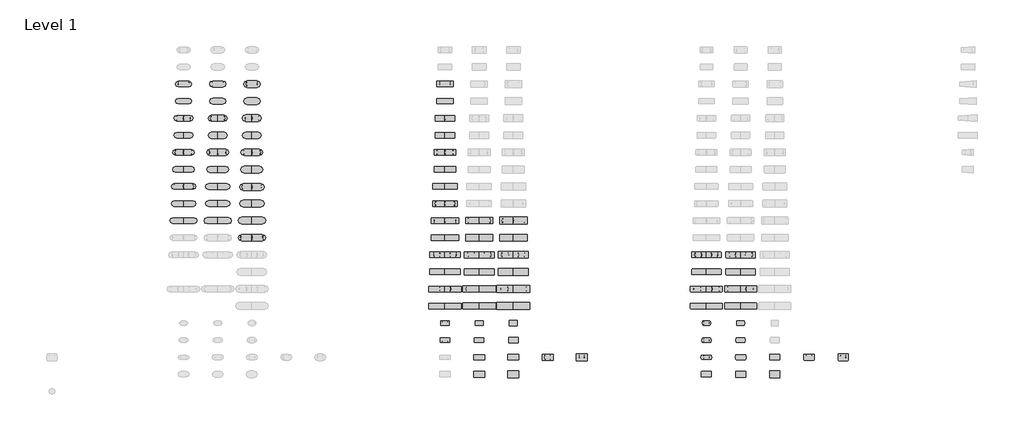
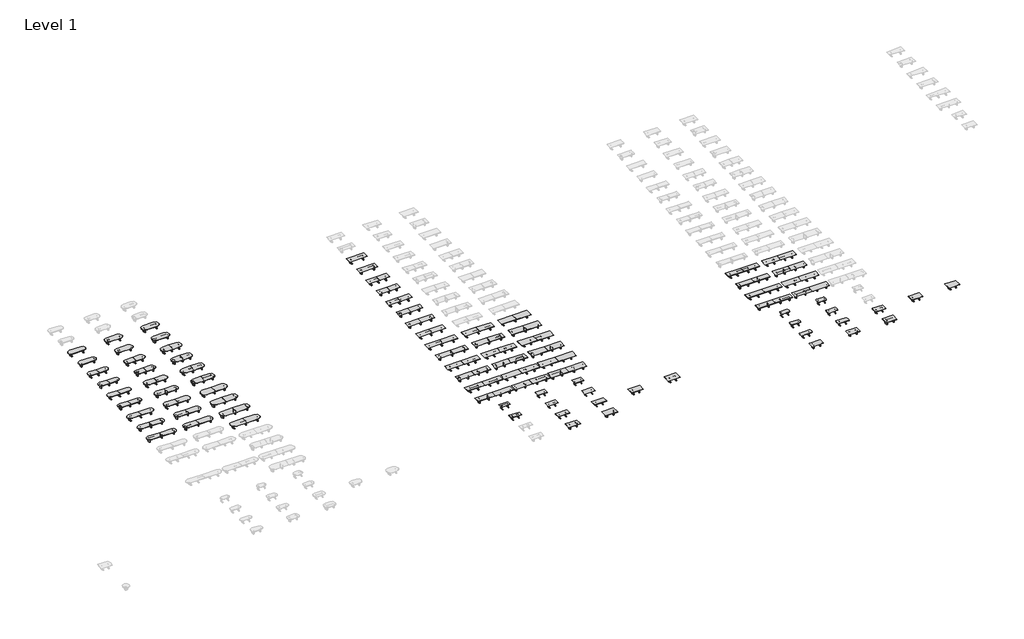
# One storey, part 2 of 3: 86 furniture elements.
"""IFC4 building model written with IfcOpenShell, lengths in millimetres."""

from ifc_helpers import new_model, si_unit, origin, place, context, project, spatial, transform, mapped, element, save
from components import furniture_36d_3dbc22d1, furniture_36d_40c2a438, furniture_36d_6a36a84a, furniture_36d_5739cef9, furniture_36d_7d7f5c59, furniture_42d_c484a762, furniture_42d_29a239c2, furniture_42d_aea06602, furniture_42d_55c07481, furniture_42d_2f060491, furniture_42d_a634458f, furniture_48d_0efdce5b, furniture_48d_e3e12d28, furniture_48d_d1b01ad5, furniture_48d_ae206274, furniture_48d_08eb001f, furniture_48d_54405f91, furniture_48d_d8c206ab, furniture_48d_8af77be7, furniture_48d_4dcca9eb, furniture_48d_d0c0373c, furniture_48d_4e825bd2, furniture_48d_83eda018, furniture_48d_89c9d34d, furniture_48d_2db85514, furniture_48d_a24e7c98, furniture_48d_375dbffd, furniture_48d_2fcb32b7, furniture_48d_76c35294, furniture_48d_12ac701e, furniture_48d_bba248dc, furniture_48d_ad6c0e78, furniture_48d_02159c9c, furniture_48d_0e4f156b, furniture_48d_1f168789, furniture_48d_3bdc1eed, furniture_48d_5808e242, furniture_48d_4f236a16, furniture_48d_a63c1d98, furniture_48d_34605e6a, furniture_48d_51cb476e, furniture_48d_468f8837, furniture_48d_277532bd, furniture_48d_9ae3bff3, furniture_48d_48fad50a, furniture_54d_72e88866, furniture_54d_8b636b1f, furniture_54d_8565a637, furniture_54d_f987d63c, furniture_54d_3a0905d3, furniture_54d_2627609f, furniture_54d_18104b15, furniture_54d_fcdf6722, furniture_54d_d06905ca, furniture_54d_b636ba2b, furniture_54d_6ded3c11, furniture_54d_bbad1931, furniture_54d_0f6988a3, furniture_54d_ceadc46e, furniture_54d_5ac49c39, furniture_54d_fdcc5884, furniture_54d_941b465b, furniture_54d_e3f36c5a, furniture_54d_09924e1d, furniture_54d_5252a1df, furniture_54d_7f392c79, furniture_54d_5d23f60c, furniture_54d_4fca18bc, furniture_60d_595060a9, furniture_60d_c13e7d78, furniture_60d_99d75cea, furniture_60d_1b9e8316, furniture_60d_1739f9b0, furniture_60d_0058798f, furniture_60d_fc41525b, furniture_60d_28f57a3e, furniture_60d_240b983f, furniture_60d_01271257, furniture_60d_119e4f8b, furniture_60d_2a99bef6, furniture_60d_5f34fe1c, furniture_60d_5a4dc6db, furniture_60d_78f2c5b1, furniture_60d_3c0d05f1, furniture_60d_f8289ab6, furniture_60d_041f9e97, furniture_60d_811de827, furniture_60d_4b0efca1

model = new_model("IFC4")

# Units and contexts
model_context = context("Model", 3, world=origin())
ifc_project = project(units=[si_unit("LENGTHUNIT", "METRE", prefix="MILLI")], contexts=[model_context])

# Site, building, storey
site = spatial("IfcSite", under=ifc_project)
building = spatial("IfcBuilding", under=site)
storey = spatial("IfcBuildingStorey", under=building, Name="Level 1", Elevation=0.0)

# Furniture
placement = place(None, origin())
furniture_36d_shape = furniture_36d_3dbc22d1(model_context)
element("IfcFurniture", 1, ObjectType="Coalesse_AM_Table_Conference_ETable2_Rectangular_72in_AluminiumBase : 36D", at=placement, inside=storey, context=model_context, shape_type="MappedRepresentation", body=[
    mapped(furniture_36d_shape, transform((890409.9142043, -56841.6858647, 0.0), x_axis=(1.0, 0.0, 0.0), y_axis=(0.0, 1.0, 0.0), z_axis=(0.0, 0.0, 1.0))),
])
furniture_36d_2_shape = furniture_36d_40c2a438(model_context)
element("IfcFurniture", 2, ObjectType="Coalesse_AM_Table_Conference_ETable2_Rectangular_84in_AluminiumBase : 36D", at=placement, inside=storey, context=model_context, shape_type="MappedRepresentation", body=[
    mapped(furniture_36d_2_shape, transform((890409.9142043, -60651.6858647, 0.0), x_axis=(1.0, 0.0, 0.0), y_axis=(0.0, 1.0, 0.0), z_axis=(0.0, 0.0, 1.0))),
])
furniture_36d_3_shape = furniture_36d_6a36a84a(model_context)
element("IfcFurniture", 3, ObjectType="Coalesse_AM_Table_Conference_ETable2_SoftRadiused_72in_AluminiumBase : 36D", at=placement, inside=storey, context=model_context, shape_type="MappedRepresentation", body=[
    mapped(furniture_36d_3_shape, transform((948685.1829849, -56841.6858647, 0.0), x_axis=(1.0, 0.0, 0.0), y_axis=(0.0, 1.0, 0.0), z_axis=(0.0, 0.0, 1.0))),
])
furniture_36d_4_shape = furniture_36d_5739cef9(model_context)
element("IfcFurniture", 4, ObjectType="Coalesse_AM_Table_Conference_ETable2_SoftRadiused_84in_AluminiumBase : 36D", at=placement, inside=storey, context=model_context, shape_type="MappedRepresentation", body=[
    mapped(furniture_36d_4_shape, transform((948685.1829849, -60651.6858647, 0.0), x_axis=(1.0, 0.0, 0.0), y_axis=(0.0, 1.0, 0.0), z_axis=(0.0, 0.0, 1.0))),
])
furniture_36d_5_shape = furniture_36d_7d7f5c59(model_context)
element("IfcFurniture", 5, ObjectType="Coalesse_AM_Table_Conference_ETable2_SoftRadiused_96in_AluminiumBase : 36D", at=placement, inside=storey, context=model_context, shape_type="MappedRepresentation", body=[
    mapped(furniture_36d_5_shape, transform((948685.1829849, -64461.6858647, 0.0), x_axis=(1.0, 0.0, 0.0), y_axis=(0.0, 1.0, 0.0), z_axis=(0.0, 0.0, 1.0))),
])
furniture_42d_shape = furniture_42d_c484a762(model_context)
element("IfcFurniture", 6, ObjectType="Coalesse_AM_Table_Conference_ETable2_Rectangular_72in_AluminiumBase : 42D", at=placement, inside=storey, context=model_context, shape_type="MappedRepresentation", body=[
    mapped(furniture_42d_shape, transform((898029.9142043, -56841.6858647, 0.0), x_axis=(1.0, 0.0, 0.0), y_axis=(0.0, 1.0, 0.0), z_axis=(0.0, 0.0, 1.0))),
])
furniture_42d_2_shape = furniture_42d_29a239c2(model_context)
element("IfcFurniture", 7, ObjectType="Coalesse_AM_Table_Conference_ETable2_Rectangular_84in_AluminiumBase : 42D", at=placement, inside=storey, context=model_context, shape_type="MappedRepresentation", body=[
    mapped(furniture_42d_2_shape, transform((898029.9142043, -60651.6858647, 0.0), x_axis=(1.0, 0.0, 0.0), y_axis=(0.0, 1.0, 0.0), z_axis=(0.0, 0.0, 1.0))),
])
furniture_42d_3_shape = furniture_42d_aea06602(model_context)
element("IfcFurniture", 8, ObjectType="Coalesse_AM_Table_Conference_ETable2_Rectangular_96in_AluminiumBase : 42D", at=placement, inside=storey, context=model_context, shape_type="MappedRepresentation", body=[
    mapped(furniture_42d_3_shape, transform((898029.9142043, -64461.6858647, 0.0), x_axis=(1.0, 0.0, 0.0), y_axis=(0.0, 1.0, 0.0), z_axis=(0.0, 0.0, 1.0))),
])
furniture_42d_4_shape = furniture_42d_55c07481(model_context)
element("IfcFurniture", 9, ObjectType="Coalesse_AM_Table_Conference_ETable2_SoftRadiused_72in_AluminiumBase : 42D", at=placement, inside=storey, context=model_context, shape_type="MappedRepresentation", body=[
    mapped(furniture_42d_4_shape, transform((956305.1829849, -56841.6858647, 0.0), x_axis=(1.0, 0.0, 0.0), y_axis=(0.0, 1.0, 0.0), z_axis=(0.0, 0.0, 1.0))),
])
furniture_42d_5_shape = furniture_42d_2f060491(model_context)
element("IfcFurniture", 10, ObjectType="Coalesse_AM_Table_Conference_ETable2_SoftRadiused_84in_AluminiumBase : 42D", at=placement, inside=storey, context=model_context, shape_type="MappedRepresentation", body=[
    mapped(furniture_42d_5_shape, transform((956305.1829849, -60651.6858647, 0.0), x_axis=(1.0, 0.0, 0.0), y_axis=(0.0, 1.0, 0.0), z_axis=(0.0, 0.0, 1.0))),
])
furniture_42d_6_shape = furniture_42d_a634458f(model_context)
element("IfcFurniture", 11, ObjectType="Coalesse_AM_Table_Conference_ETable2_SoftRadiused_96in_AluminiumBase : 42D", at=placement, inside=storey, context=model_context, shape_type="MappedRepresentation", body=[
    mapped(furniture_42d_6_shape, transform((956305.1829849, -64461.6858647, 0.0), x_axis=(1.0, 0.0, 0.0), y_axis=(0.0, 1.0, 0.0), z_axis=(0.0, 0.0, 1.0))),
])
furniture_48d_shape = furniture_48d_0efdce5b(model_context)
element("IfcFurniture", 12, ObjectType="Coalesse_AM_Table_Conference_ETable2_Rectangular_12ft_AluminiumBase : 48D", at=placement, inside=storey, context=model_context, shape_type="MappedRepresentation", body=[
    mapped(furniture_48d_shape, transform((890409.9142043, -3501.6858647, 0.0), x_axis=(1.0, 0.0, 0.0), y_axis=(0.0, 1.0, 0.0), z_axis=(0.0, 0.0, 1.0))),
])
furniture_48d_2_shape = furniture_48d_e3e12d28(model_context)
element("IfcFurniture", 13, ObjectType="Coalesse_AM_Table_Conference_ETable2_Rectangular_12ft_TwoBase : 48D", at=placement, inside=storey, context=model_context, shape_type="MappedRepresentation", body=[
    mapped(furniture_48d_2_shape, transform((890409.9142043, -7311.6858647, 0.0), x_axis=(1.0, 0.0, 0.0), y_axis=(0.0, 1.0, 0.0), z_axis=(0.0, 0.0, 1.0))),
])
furniture_48d_3_shape = furniture_48d_d1b01ad5(model_context)
element("IfcFurniture", 14, ObjectType="Coalesse_AM_Table_Conference_ETable2_Rectangular_14ft_AluminiumBase : 48D", at=placement, inside=storey, context=model_context, shape_type="MappedRepresentation", body=[
    mapped(furniture_48d_3_shape, transform((890409.9142043, -11121.6858647, 0.0), x_axis=(1.0, 0.0, 0.0), y_axis=(0.0, 1.0, 0.0), z_axis=(0.0, 0.0, 1.0))),
])
furniture_48d_4_shape = furniture_48d_ae206274(model_context)
element("IfcFurniture", 15, ObjectType="Coalesse_AM_Table_Conference_ETable2_Rectangular_14ft_ThreeBase : 48D", at=placement, inside=storey, context=model_context, shape_type="MappedRepresentation", body=[
    mapped(furniture_48d_4_shape, transform((890409.9142043, -14931.6858647, 0.0), x_axis=(1.0, 0.0, 0.0), y_axis=(0.0, 1.0, 0.0), z_axis=(0.0, 0.0, 1.0))),
])
furniture_48d_5_shape = furniture_48d_08eb001f(model_context)
element("IfcFurniture", 16, ObjectType="Coalesse_AM_Table_Conference_ETable2_Rectangular_16ft_AluminiumBase : 48D", at=placement, inside=storey, context=model_context, shape_type="MappedRepresentation", body=[
    mapped(furniture_48d_5_shape, transform((890409.9142043, -18741.6858647, 0.0), x_axis=(1.0, 0.0, 0.0), y_axis=(0.0, 1.0, 0.0), z_axis=(0.0, 0.0, 1.0))),
])
furniture_48d_6_shape = furniture_48d_54405f91(model_context)
element("IfcFurniture", 17, ObjectType="Coalesse_AM_Table_Conference_ETable2_Rectangular_16ft_ThreeBase : 48D", at=placement, inside=storey, context=model_context, shape_type="MappedRepresentation", body=[
    mapped(furniture_48d_6_shape, transform((890409.9142043, -22551.6858647, 0.0), x_axis=(1.0, 0.0, 0.0), y_axis=(0.0, 1.0, 0.0), z_axis=(0.0, 0.0, 1.0))),
])
furniture_48d_7_shape = furniture_48d_d8c206ab(model_context)
element("IfcFurniture", 18, ObjectType="Coalesse_AM_Table_Conference_ETable2_Rectangular_18ft_ThreeBase : 48D", at=placement, inside=storey, context=model_context, shape_type="MappedRepresentation", body=[
    mapped(furniture_48d_7_shape, transform((890409.9142043, -26361.6858647, 0.0), x_axis=(1.0, 0.0, 0.0), y_axis=(0.0, 1.0, 0.0), z_axis=(0.0, 0.0, 1.0))),
])
furniture_48d_8_shape = furniture_48d_8af77be7(model_context)
element("IfcFurniture", 19, ObjectType="Coalesse_AM_Table_Conference_ETable2_Rectangular_18ft_AluminiumBase : 48D", at=placement, inside=storey, context=model_context, shape_type="MappedRepresentation", body=[
    mapped(furniture_48d_8_shape, transform((890409.9142043, -30171.6858647, 0.0), x_axis=(1.0, 0.0, 0.0), y_axis=(0.0, 1.0, 0.0), z_axis=(0.0, 0.0, 1.0))),
])
furniture_48d_9_shape = furniture_48d_4dcca9eb(model_context)
element("IfcFurniture", 20, ObjectType="Coalesse_AM_Table_Conference_ETable2_Rectangular_20ft_AluminiumBase : 48D", at=placement, inside=storey, context=model_context, shape_type="MappedRepresentation", body=[
    mapped(furniture_48d_9_shape, transform((890409.9142043, -33981.6858647, 0.0), x_axis=(1.0, 0.0, 0.0), y_axis=(0.0, 1.0, 0.0), z_axis=(0.0, 0.0, 1.0))),
])
furniture_48d_10_shape = furniture_48d_d0c0373c(model_context)
element("IfcFurniture", 21, ObjectType="Coalesse_AM_Table_Conference_ETable2_Rectangular_20ft_ThreeBase : 48D", at=placement, inside=storey, context=model_context, shape_type="MappedRepresentation", body=[
    mapped(furniture_48d_10_shape, transform((890409.9142043, -37791.6858647, 0.0), x_axis=(1.0, 0.0, 0.0), y_axis=(0.0, 1.0, 0.0), z_axis=(0.0, 0.0, 1.0))),
])
furniture_48d_11_shape = furniture_48d_4e825bd2(model_context)
element("IfcFurniture", 22, ObjectType="Coalesse_AM_Table_Conference_ETable2_Rectangular_22ft_AluminiumBase : 48D", at=placement, inside=storey, context=model_context, shape_type="MappedRepresentation", body=[
    mapped(furniture_48d_11_shape, transform((890409.9142043, -41601.6858647, 0.0), x_axis=(1.0, 0.0, 0.0), y_axis=(0.0, 1.0, 0.0), z_axis=(0.0, 0.0, 1.0))),
])
furniture_48d_12_shape = furniture_48d_83eda018(model_context)
element("IfcFurniture", 23, ObjectType="Coalesse_AM_Table_Conference_ETable2_Rectangular_22ft_FourBase : 48D", at=placement, inside=storey, context=model_context, shape_type="MappedRepresentation", body=[
    mapped(furniture_48d_12_shape, transform((890409.9142043, -45411.6858647, 0.0), x_axis=(1.0, 0.0, 0.0), y_axis=(0.0, 1.0, 0.0), z_axis=(0.0, 0.0, 1.0))),
])
furniture_48d_13_shape = furniture_48d_89c9d34d(model_context)
element("IfcFurniture", 24, ObjectType="Coalesse_AM_Table_Conference_ETable2_Rectangular_24ft_AluminiumBase : 48D", at=placement, inside=storey, context=model_context, shape_type="MappedRepresentation", body=[
    mapped(furniture_48d_13_shape, transform((890409.9142043, -49221.6858647, 0.0), x_axis=(1.0, 0.0, 0.0), y_axis=(0.0, 1.0, 0.0), z_axis=(0.0, 0.0, 1.0))),
])
furniture_48d_14_shape = furniture_48d_2db85514(model_context)
element("IfcFurniture", 25, ObjectType="Coalesse_AM_Table_Conference_ETable2_Rectangular_24ft_FourBase : 48D", at=placement, inside=storey, context=model_context, shape_type="MappedRepresentation", body=[
    mapped(furniture_48d_14_shape, transform((890409.9142043, -53031.6858647, 0.0), x_axis=(1.0, 0.0, 0.0), y_axis=(0.0, 1.0, 0.0), z_axis=(0.0, 0.0, 1.0))),
])
furniture_48d_15_shape = furniture_48d_a24e7c98(model_context)
element("IfcFurniture", 26, ObjectType="Coalesse_AM_Table_Conference_ETable2_Rectangular_72in_AluminiumBase : 48D", at=placement, inside=storey, context=model_context, shape_type="MappedRepresentation", body=[
    mapped(furniture_48d_15_shape, transform((905649.9142043, -56841.6858647, 0.0), x_axis=(1.0, 0.0, 0.0), y_axis=(0.0, 1.0, 0.0), z_axis=(0.0, 0.0, 1.0))),
])
furniture_48d_16_shape = furniture_48d_375dbffd(model_context)
element("IfcFurniture", 27, ObjectType="Coalesse_AM_Table_Conference_ETable2_Rectangular_84in_AluminiumBase : 48D", at=placement, inside=storey, context=model_context, shape_type="MappedRepresentation", body=[
    mapped(furniture_48d_16_shape, transform((905649.9142043, -60651.6858647, 0.0), x_axis=(1.0, 0.0, 0.0), y_axis=(0.0, 1.0, 0.0), z_axis=(0.0, 0.0, 1.0))),
])
furniture_48d_17_shape = furniture_48d_2fcb32b7(model_context)
element("IfcFurniture", 28, ObjectType="Coalesse_AM_Table_Conference_ETable2_Rectangular_96in_AluminiumBase : 48D", at=placement, inside=storey, context=model_context, shape_type="MappedRepresentation", body=[
    mapped(furniture_48d_17_shape, transform((905649.9142043, -64461.6858647, 0.0), x_axis=(1.0, 0.0, 0.0), y_axis=(0.0, 1.0, 0.0), z_axis=(0.0, 0.0, 1.0))),
])
furniture_48d_18_shape = furniture_48d_76c35294(model_context)
element("IfcFurniture", 29, ObjectType="Coalesse_AM_Table_Conference_ETable2_SoftRadiused_22ft_AluminiumBase : 48D", at=placement, inside=storey, context=model_context, shape_type="MappedRepresentation", body=[
    mapped(furniture_48d_18_shape, transform((948685.1829849, -41601.6858647, 0.0), x_axis=(1.0, 0.0, 0.0), y_axis=(0.0, 1.0, 0.0), z_axis=(0.0, 0.0, 1.0))),
])
furniture_48d_19_shape = furniture_48d_12ac701e(model_context)
furniture_48d_20_shape = furniture_48d_bba248dc(model_context)
element("IfcFurniture", 30, ObjectType="Coalesse_AM_Table_Conference_ETable2_SoftRadiused_22ft_FourBase : 48D", at=placement, inside=storey, context=model_context, shape_type="MappedRepresentation", body=[
    mapped(furniture_48d_19_shape, transform((948685.1829849, -45411.6858647, 0.0), x_axis=(1.0, 0.0, 0.0), y_axis=(0.0, 1.0, 0.0), z_axis=(0.0, 0.0, 1.0))),
    mapped(furniture_48d_20_shape, transform((948685.1829849, -45411.6858647, 0.0), x_axis=(1.0, 0.0, 0.0), y_axis=(0.0, 1.0, 0.0), z_axis=(0.0, 0.0, 1.0))),
])
furniture_48d_21_shape = furniture_48d_ad6c0e78(model_context)
element("IfcFurniture", 31, ObjectType="Coalesse_AM_Table_Conference_ETable2_SoftRadiused_24ft_AluminiumBase : 48D", at=placement, inside=storey, context=model_context, shape_type="MappedRepresentation", body=[
    mapped(furniture_48d_21_shape, transform((948685.1829849, -49221.6858647, 0.0), x_axis=(1.0, 0.0, 0.0), y_axis=(0.0, 1.0, 0.0), z_axis=(0.0, 0.0, 1.0))),
])
furniture_48d_22_shape = furniture_48d_02159c9c(model_context)
furniture_48d_23_shape = furniture_48d_0e4f156b(model_context)
element("IfcFurniture", 32, ObjectType="Coalesse_AM_Table_Conference_ETable2_SoftRadiused_24ft_FourBase : 48D", at=placement, inside=storey, context=model_context, shape_type="MappedRepresentation", body=[
    mapped(furniture_48d_22_shape, transform((948685.1829849, -53031.6858647, 0.0), x_axis=(1.0, 0.0, 0.0), y_axis=(0.0, 1.0, 0.0), z_axis=(0.0, 0.0, 1.0))),
    mapped(furniture_48d_23_shape, transform((948685.1829849, -53031.6858647, 0.0), x_axis=(1.0, 0.0, 0.0), y_axis=(0.0, 1.0, 0.0), z_axis=(0.0, 0.0, 1.0))),
])
furniture_48d_24_shape = furniture_48d_1f168789(model_context)
element("IfcFurniture", 33, ObjectType="Coalesse_AM_Table_Conference_ETable2_SoftRadiused_96in_AluminiumBase : 48D", at=placement, inside=storey, context=model_context, shape_type="MappedRepresentation", body=[
    mapped(furniture_48d_24_shape, transform((963925.1829849, -64461.6858647, 0.0), x_axis=(1.0, 0.0, 0.0), y_axis=(0.0, 1.0, 0.0), z_axis=(0.0, 0.0, 1.0))),
])
furniture_48d_25_shape = furniture_48d_3bdc1eed(model_context)
element("IfcFurniture", 34, ObjectType="Coalesse_AM_Table_Conference_ETable2_SoftRadiused_96in_TwoBase : 48D", at=placement, inside=storey, context=model_context, shape_type="MappedRepresentation", body=[
    mapped(furniture_48d_25_shape, transform((948685.1829849, -68271.6858647, 0.0), x_axis=(1.0, 0.0, 0.0), y_axis=(0.0, 1.0, 0.0), z_axis=(0.0, 0.0, 1.0))),
])
furniture_48d_26_shape = furniture_48d_5808e242(model_context)
element("IfcFurniture", 35, ObjectType="Coalesse_AM_Table_Conference_ETable2_Racetrack_12ft_AluminiumBase : 48D", at=placement, inside=storey, context=model_context, shape_type="MappedRepresentation", body=[
    mapped(furniture_48d_26_shape, transform((832134.6454236, -3501.6858647, 0.0), x_axis=(1.0, 0.0, 0.0), y_axis=(0.0, 1.0, 0.0), z_axis=(0.0, 0.0, 1.0))),
])
furniture_48d_27_shape = furniture_48d_4f236a16(model_context)
element("IfcFurniture", 36, ObjectType="Coalesse_AM_Table_Conference_ETable2_Racetrack_12ft_TwoBase : 48D", at=placement, inside=storey, context=model_context, shape_type="MappedRepresentation", body=[
    mapped(furniture_48d_27_shape, transform((832134.6454236, -7311.6858647, 0.0), x_axis=(1.0, 0.0, 0.0), y_axis=(0.0, 1.0, 0.0), z_axis=(0.0, 0.0, 1.0))),
])
furniture_48d_28_shape = furniture_48d_a63c1d98(model_context)
element("IfcFurniture", 37, ObjectType="Coalesse_AM_Table_Conference_ETable2_Racetrack_14ft_AluminiumBase : 48D", at=placement, inside=storey, context=model_context, shape_type="MappedRepresentation", body=[
    mapped(furniture_48d_28_shape, transform((832134.6454236, -11121.6858647, 0.0), x_axis=(1.0, 0.0, 0.0), y_axis=(0.0, 1.0, 0.0), z_axis=(0.0, 0.0, 1.0))),
])
furniture_48d_29_shape = furniture_48d_34605e6a(model_context)
element("IfcFurniture", 38, ObjectType="Coalesse_AM_Table_Conference_ETable2_Racetrack_14ft_ThreeBase : 48D", at=placement, inside=storey, context=model_context, shape_type="MappedRepresentation", body=[
    mapped(furniture_48d_29_shape, transform((832134.6454236, -14931.6858647, 0.0), x_axis=(1.0, 0.0, 0.0), y_axis=(0.0, 1.0, 0.0), z_axis=(0.0, 0.0, 1.0))),
])
furniture_48d_30_shape = furniture_48d_51cb476e(model_context)
element("IfcFurniture", 39, ObjectType="Coalesse_AM_Table_Conference_ETable2_Racetrack_16ft_AluminiumBase : 48D", at=placement, inside=storey, context=model_context, shape_type="MappedRepresentation", body=[
    mapped(furniture_48d_30_shape, transform((832134.6454236, -18741.6858647, 0.0), x_axis=(1.0, 0.0, 0.0), y_axis=(0.0, 1.0, 0.0), z_axis=(0.0, 0.0, 1.0))),
])
furniture_48d_31_shape = furniture_48d_468f8837(model_context)
element("IfcFurniture", 40, ObjectType="Coalesse_AM_Table_Conference_ETable2_Racetrack_16ft_ThreeBase : 48D", at=placement, inside=storey, context=model_context, shape_type="MappedRepresentation", body=[
    mapped(furniture_48d_31_shape, transform((832134.6454236, -22551.6858647, 0.0), x_axis=(1.0, 0.0, 0.0), y_axis=(0.0, 1.0, 0.0), z_axis=(0.0, 0.0, 1.0))),
])
furniture_48d_32_shape = furniture_48d_277532bd(model_context)
element("IfcFurniture", 41, ObjectType="Coalesse_AM_Table_Conference_ETable2_Racetrack_18ft_AluminiumBase : 48D", at=placement, inside=storey, context=model_context, shape_type="MappedRepresentation", body=[
    mapped(furniture_48d_32_shape, transform((832134.6454236, -26361.6858647, 0.0), x_axis=(1.0, 0.0, 0.0), y_axis=(0.0, 1.0, 0.0), z_axis=(0.0, 0.0, 1.0))),
])
furniture_48d_33_shape = furniture_48d_9ae3bff3(model_context)
element("IfcFurniture", 42, ObjectType="Coalesse_AM_Table_Conference_ETable2_Racetrack_18ft_ThreeBase : 48D", at=placement, inside=storey, context=model_context, shape_type="MappedRepresentation", body=[
    mapped(furniture_48d_33_shape, transform((832134.6454236, -30171.6858647, 0.0), x_axis=(1.0, 0.0, 0.0), y_axis=(0.0, 1.0, 0.0), z_axis=(0.0, 0.0, 1.0))),
])
furniture_48d_34_shape = furniture_48d_48fad50a(model_context)
element("IfcFurniture", 43, ObjectType="Coalesse_AM_Table_Conference_ETable2_Racetrack_20ft_ThreeBase : 48D", at=placement, inside=storey, context=model_context, shape_type="MappedRepresentation", body=[
    mapped(furniture_48d_34_shape, transform((832134.6454236, -33981.6858647, 0.0), x_axis=(1.0, 0.0, 0.0), y_axis=(0.0, 1.0, 0.0), z_axis=(0.0, 0.0, 1.0))),
])
furniture_54d_shape = furniture_54d_72e88866(model_context)
element("IfcFurniture", 44, ObjectType="Coalesse_AM_Table_Conference_ETable2_Rectangular_20ft_AluminiumBase : 54D", at=placement, inside=storey, context=model_context, shape_type="MappedRepresentation", body=[
    mapped(furniture_54d_shape, transform((898029.9142043, -33981.6858647, 0.0), x_axis=(1.0, 0.0, 0.0), y_axis=(0.0, 1.0, 0.0), z_axis=(0.0, 0.0, 1.0))),
])
furniture_54d_2_shape = furniture_54d_8b636b1f(model_context)
element("IfcFurniture", 45, ObjectType="Coalesse_AM_Table_Conference_ETable2_Rectangular_20ft_ThreeBase : 54D", at=placement, inside=storey, context=model_context, shape_type="MappedRepresentation", body=[
    mapped(furniture_54d_2_shape, transform((898029.9142043, -37791.6858647, 0.0), x_axis=(1.0, 0.0, 0.0), y_axis=(0.0, 1.0, 0.0), z_axis=(0.0, 0.0, 1.0))),
])
furniture_54d_3_shape = furniture_54d_8565a637(model_context)
element("IfcFurniture", 46, ObjectType="Coalesse_AM_Table_Conference_ETable2_Rectangular_22ft_AluminiumBase : 54D", at=placement, inside=storey, context=model_context, shape_type="MappedRepresentation", body=[
    mapped(furniture_54d_3_shape, transform((898029.9142043, -41601.6858647, 0.0), x_axis=(1.0, 0.0, 0.0), y_axis=(0.0, 1.0, 0.0), z_axis=(0.0, 0.0, 1.0))),
])
furniture_54d_4_shape = furniture_54d_f987d63c(model_context)
element("IfcFurniture", 47, ObjectType="Coalesse_AM_Table_Conference_ETable2_Rectangular_22ft_FourBase : 54D", at=placement, inside=storey, context=model_context, shape_type="MappedRepresentation", body=[
    mapped(furniture_54d_4_shape, transform((898029.9142043, -45411.6858647, 0.0), x_axis=(1.0, 0.0, 0.0), y_axis=(0.0, 1.0, 0.0), z_axis=(0.0, 0.0, 1.0))),
])
furniture_54d_5_shape = furniture_54d_3a0905d3(model_context)
element("IfcFurniture", 48, ObjectType="Coalesse_AM_Table_Conference_ETable2_Rectangular_24ft_AluminiumBase : 54D", at=placement, inside=storey, context=model_context, shape_type="MappedRepresentation", body=[
    mapped(furniture_54d_5_shape, transform((898029.9142043, -49221.6858647, 0.0), x_axis=(1.0, 0.0, 0.0), y_axis=(0.0, 1.0, 0.0), z_axis=(0.0, 0.0, 1.0))),
])
furniture_54d_6_shape = furniture_54d_2627609f(model_context)
element("IfcFurniture", 49, ObjectType="Coalesse_AM_Table_Conference_ETable2_Rectangular_24ft_FourBase : 54D", at=placement, inside=storey, context=model_context, shape_type="MappedRepresentation", body=[
    mapped(furniture_54d_6_shape, transform((898029.9142043, -53031.6858647, 0.0), x_axis=(1.0, 0.0, 0.0), y_axis=(0.0, 1.0, 0.0), z_axis=(0.0, 0.0, 1.0))),
])
furniture_54d_7_shape = furniture_54d_18104b15(model_context)
element("IfcFurniture", 50, ObjectType="Coalesse_AM_Table_Conference_ETable2_Rectangular_96in_AluminiumBase : 54D", at=placement, inside=storey, context=model_context, shape_type="MappedRepresentation", body=[
    mapped(furniture_54d_7_shape, transform((913269.9142043, -64461.6858647, 0.0), x_axis=(1.0, 0.0, 0.0), y_axis=(0.0, 1.0, 0.0), z_axis=(0.0, 0.0, 1.0))),
])
furniture_54d_8_shape = furniture_54d_fcdf6722(model_context)
element("IfcFurniture", 51, ObjectType="Coalesse_AM_Table_Conference_ETable2_Rectangular_96in_TwoBase : 54D", at=placement, inside=storey, context=model_context, shape_type="MappedRepresentation", body=[
    mapped(furniture_54d_8_shape, transform((898029.9142043, -68271.6858647, 0.0), x_axis=(1.0, 0.0, 0.0), y_axis=(0.0, 1.0, 0.0), z_axis=(0.0, 0.0, 1.0))),
])
furniture_54d_9_shape = furniture_54d_d06905ca(model_context)
element("IfcFurniture", 52, ObjectType="Coalesse_AM_Table_Conference_ETable2_SoftRadiused_22ft_AluminiumBase : 54D", at=placement, inside=storey, context=model_context, shape_type="MappedRepresentation", body=[
    mapped(furniture_54d_9_shape, transform((956305.1829849, -41601.6858647, 0.0), x_axis=(1.0, 0.0, 0.0), y_axis=(0.0, 1.0, 0.0), z_axis=(0.0, 0.0, 1.0))),
])
furniture_54d_10_shape = furniture_54d_b636ba2b(model_context)
element("IfcFurniture", 53, ObjectType="Coalesse_AM_Table_Conference_ETable2_SoftRadiused_22ft_FourBase : 54D", at=placement, inside=storey, context=model_context, shape_type="MappedRepresentation", body=[
    mapped(furniture_48d_19_shape, transform((956305.1829849, -45411.6858647, 0.0), x_axis=(1.0, 0.0, 0.0), y_axis=(0.0, 1.0, 0.0), z_axis=(0.0, 0.0, 1.0))),
    mapped(furniture_54d_10_shape, transform((956305.1829849, -45411.6858647, 0.0), x_axis=(1.0, 0.0, 0.0), y_axis=(0.0, 1.0, 0.0), z_axis=(0.0, 0.0, 1.0))),
])
furniture_54d_11_shape = furniture_54d_6ded3c11(model_context)
element("IfcFurniture", 54, ObjectType="Coalesse_AM_Table_Conference_ETable2_SoftRadiused_24ft_AluminiumBase : 54D", at=placement, inside=storey, context=model_context, shape_type="MappedRepresentation", body=[
    mapped(furniture_54d_11_shape, transform((956305.1829849, -49221.6858647, 0.0), x_axis=(1.0, 0.0, 0.0), y_axis=(0.0, 1.0, 0.0), z_axis=(0.0, 0.0, 1.0))),
])
furniture_54d_12_shape = furniture_54d_bbad1931(model_context)
element("IfcFurniture", 55, ObjectType="Coalesse_AM_Table_Conference_ETable2_SoftRadiused_24ft_FourBase : 54D", at=placement, inside=storey, context=model_context, shape_type="MappedRepresentation", body=[
    mapped(furniture_48d_22_shape, transform((956305.1829849, -53031.6858647, 0.0), x_axis=(1.0, 0.0, 0.0), y_axis=(0.0, 1.0, 0.0), z_axis=(0.0, 0.0, 1.0))),
    mapped(furniture_54d_12_shape, transform((956305.1829849, -53031.6858647, 0.0), x_axis=(1.0, 0.0, 0.0), y_axis=(0.0, 1.0, 0.0), z_axis=(0.0, 0.0, 1.0))),
])
furniture_54d_13_shape = furniture_54d_0f6988a3(model_context)
element("IfcFurniture", 56, ObjectType="Coalesse_AM_Table_Conference_ETable2_SoftRadiused_96in_AluminiumBase : 54D", at=placement, inside=storey, context=model_context, shape_type="MappedRepresentation", body=[
    mapped(furniture_54d_13_shape, transform((971545.1829849, -64461.6858647, 0.0), x_axis=(1.0, 0.0, 0.0), y_axis=(0.0, 1.0, 0.0), z_axis=(0.0, 0.0, 1.0))),
])
furniture_54d_14_shape = furniture_54d_ceadc46e(model_context)
element("IfcFurniture", 57, ObjectType="Coalesse_AM_Table_Conference_ETable2_SoftRadiused_96in_TwoBase : 54D", at=placement, inside=storey, context=model_context, shape_type="MappedRepresentation", body=[
    mapped(furniture_54d_14_shape, transform((956305.1829849, -68271.6858647, 0.0), x_axis=(1.0, 0.0, 0.0), y_axis=(0.0, 1.0, 0.0), z_axis=(0.0, 0.0, 1.0))),
])
furniture_54d_15_shape = furniture_54d_5ac49c39(model_context)
element("IfcFurniture", 58, ObjectType="Coalesse_AM_Table_Conference_ETable2_Racetrack_12ft_AluminiumBase : 54D", at=placement, inside=storey, context=model_context, shape_type="MappedRepresentation", body=[
    mapped(furniture_54d_15_shape, transform((839754.6454236, -3501.6858647, 0.0), x_axis=(1.0, 0.0, 0.0), y_axis=(0.0, 1.0, 0.0), z_axis=(0.0, 0.0, 1.0))),
])
furniture_54d_16_shape = furniture_54d_fdcc5884(model_context)
element("IfcFurniture", 59, ObjectType="Coalesse_AM_Table_Conference_ETable2_Racetrack_12ft_TwoBase : 54D", at=placement, inside=storey, context=model_context, shape_type="MappedRepresentation", body=[
    mapped(furniture_54d_16_shape, transform((839754.6454236, -7311.6858647, 0.0), x_axis=(1.0, 0.0, 0.0), y_axis=(0.0, 1.0, 0.0), z_axis=(0.0, 0.0, 1.0))),
])
furniture_54d_17_shape = furniture_54d_941b465b(model_context)
element("IfcFurniture", 60, ObjectType="Coalesse_AM_Table_Conference_ETable2_Racetrack_14ft_AluminiumBase : 54D", at=placement, inside=storey, context=model_context, shape_type="MappedRepresentation", body=[
    mapped(furniture_54d_17_shape, transform((839754.6454236, -11121.6858647, 0.0), x_axis=(1.0, 0.0, 0.0), y_axis=(0.0, 1.0, 0.0), z_axis=(0.0, 0.0, 1.0))),
])
furniture_54d_18_shape = furniture_54d_e3f36c5a(model_context)
element("IfcFurniture", 61, ObjectType="Coalesse_AM_Table_Conference_ETable2_Racetrack_14ft_ThreeBase : 54D", at=placement, inside=storey, context=model_context, shape_type="MappedRepresentation", body=[
    mapped(furniture_54d_18_shape, transform((839754.6454236, -14931.6858647, 0.0), x_axis=(1.0, 0.0, 0.0), y_axis=(0.0, 1.0, 0.0), z_axis=(0.0, 0.0, 1.0))),
])
furniture_54d_19_shape = furniture_54d_09924e1d(model_context)
element("IfcFurniture", 62, ObjectType="Coalesse_AM_Table_Conference_ETable2_Racetrack_16ft_AluminiumBase : 54D", at=placement, inside=storey, context=model_context, shape_type="MappedRepresentation", body=[
    mapped(furniture_54d_19_shape, transform((839754.6454236, -18741.6858647, 0.0), x_axis=(1.0, 0.0, 0.0), y_axis=(0.0, 1.0, 0.0), z_axis=(0.0, 0.0, 1.0))),
])
furniture_54d_20_shape = furniture_54d_5252a1df(model_context)
element("IfcFurniture", 63, ObjectType="Coalesse_AM_Table_Conference_ETable2_Racetrack_16ft_ThreeBase : 54D", at=placement, inside=storey, context=model_context, shape_type="MappedRepresentation", body=[
    mapped(furniture_54d_20_shape, transform((839754.6454236, -22551.6858647, 0.0), x_axis=(1.0, 0.0, 0.0), y_axis=(0.0, 1.0, 0.0), z_axis=(0.0, 0.0, 1.0))),
])
furniture_54d_21_shape = furniture_54d_7f392c79(model_context)
element("IfcFurniture", 64, ObjectType="Coalesse_AM_Table_Conference_ETable2_Racetrack_18ft_AluminiumBase : 54D", at=placement, inside=storey, context=model_context, shape_type="MappedRepresentation", body=[
    mapped(furniture_54d_21_shape, transform((839754.6454236, -26361.6858647, 0.0), x_axis=(1.0, 0.0, 0.0), y_axis=(0.0, 1.0, 0.0), z_axis=(0.0, 0.0, 1.0))),
])
furniture_54d_22_shape = furniture_54d_5d23f60c(model_context)
element("IfcFurniture", 65, ObjectType="Coalesse_AM_Table_Conference_ETable2_Racetrack_18ft_ThreeBase : 54D", at=placement, inside=storey, context=model_context, shape_type="MappedRepresentation", body=[
    mapped(furniture_54d_22_shape, transform((839754.6454236, -30171.6858647, 0.0), x_axis=(1.0, 0.0, 0.0), y_axis=(0.0, 1.0, 0.0), z_axis=(0.0, 0.0, 1.0))),
])
furniture_54d_23_shape = furniture_54d_4fca18bc(model_context)
element("IfcFurniture", 66, ObjectType="Coalesse_AM_Table_Conference_ETable2_Racetrack_20ft_ThreeBase : 54D", at=placement, inside=storey, context=model_context, shape_type="MappedRepresentation", body=[
    mapped(furniture_54d_23_shape, transform((839754.6454236, -33981.6858647, 0.0), x_axis=(1.0, 0.0, 0.0), y_axis=(0.0, 1.0, 0.0), z_axis=(0.0, 0.0, 1.0))),
])
furniture_60d_shape = furniture_60d_595060a9(model_context)
element("IfcFurniture", 67, ObjectType="Coalesse_AM_Table_Conference_ETable2_Rectangular_20ft_AluminiumBase : 60D", at=placement, inside=storey, context=model_context, shape_type="MappedRepresentation", body=[
    mapped(furniture_60d_shape, transform((905649.9142043, -33981.6858647, 0.0), x_axis=(1.0, 0.0, 0.0), y_axis=(0.0, 1.0, 0.0), z_axis=(0.0, 0.0, 1.0))),
])
furniture_60d_2_shape = furniture_60d_c13e7d78(model_context)
element("IfcFurniture", 68, ObjectType="Coalesse_AM_Table_Conference_ETable2_Rectangular_20ft_ThreeBase : 60D", at=placement, inside=storey, context=model_context, shape_type="MappedRepresentation", body=[
    mapped(furniture_60d_2_shape, transform((905649.9142043, -37791.6858647, 0.0), x_axis=(1.0, 0.0, 0.0), y_axis=(0.0, 1.0, 0.0), z_axis=(0.0, 0.0, 1.0))),
])
furniture_60d_3_shape = furniture_60d_99d75cea(model_context)
element("IfcFurniture", 69, ObjectType="Coalesse_AM_Table_Conference_ETable2_Rectangular_22ft_AluminiumBase : 60D", at=placement, inside=storey, context=model_context, shape_type="MappedRepresentation", body=[
    mapped(furniture_60d_3_shape, transform((905649.9142043, -41601.6858647, 0.0), x_axis=(1.0, 0.0, 0.0), y_axis=(0.0, 1.0, 0.0), z_axis=(0.0, 0.0, 1.0))),
])
furniture_60d_4_shape = furniture_60d_1b9e8316(model_context)
element("IfcFurniture", 70, ObjectType="Coalesse_AM_Table_Conference_ETable2_Rectangular_22ft_FourBase : 60D", at=placement, inside=storey, context=model_context, shape_type="MappedRepresentation", body=[
    mapped(furniture_60d_4_shape, transform((905649.9142043, -45411.6858647, 0.0), x_axis=(1.0, 0.0, 0.0), y_axis=(0.0, 1.0, 0.0), z_axis=(0.0, 0.0, 1.0))),
])
furniture_60d_5_shape = furniture_60d_1739f9b0(model_context)
element("IfcFurniture", 71, ObjectType="Coalesse_AM_Table_Conference_ETable2_Rectangular_24ft_AluminiumBase : 60D", at=placement, inside=storey, context=model_context, shape_type="MappedRepresentation", body=[
    mapped(furniture_60d_5_shape, transform((905649.9142043, -49221.6858647, 0.0), x_axis=(1.0, 0.0, 0.0), y_axis=(0.0, 1.0, 0.0), z_axis=(0.0, 0.0, 1.0))),
])
furniture_60d_6_shape = furniture_60d_0058798f(model_context)
element("IfcFurniture", 72, ObjectType="Coalesse_AM_Table_Conference_ETable2_Rectangular_24ft_FourBase : 60D", at=placement, inside=storey, context=model_context, shape_type="MappedRepresentation", body=[
    mapped(furniture_60d_6_shape, transform((905649.9142043, -53031.6858647, 0.0), x_axis=(1.0, 0.0, 0.0), y_axis=(0.0, 1.0, 0.0), z_axis=(0.0, 0.0, 1.0))),
])
furniture_60d_7_shape = furniture_60d_fc41525b(model_context)
element("IfcFurniture", 73, ObjectType="Coalesse_AM_Table_Conference_ETable2_Rectangular_96in_AluminiumBase : 60D", at=placement, inside=storey, context=model_context, shape_type="MappedRepresentation", body=[
    mapped(furniture_60d_7_shape, transform((920889.9142043, -64461.6858647, 0.0), x_axis=(1.0, 0.0, 0.0), y_axis=(0.0, 1.0, 0.0), z_axis=(0.0, 0.0, 1.0))),
])
furniture_60d_8_shape = furniture_60d_28f57a3e(model_context)
element("IfcFurniture", 74, ObjectType="Coalesse_AM_Table_Conference_ETable2_Rectangular_96in_TwoBase : 60D", at=placement, inside=storey, context=model_context, shape_type="MappedRepresentation", body=[
    mapped(furniture_60d_8_shape, transform((905649.9142043, -68271.6858647, 0.0), x_axis=(1.0, 0.0, 0.0), y_axis=(0.0, 1.0, 0.0), z_axis=(0.0, 0.0, 1.0))),
])
furniture_60d_9_shape = furniture_60d_240b983f(model_context)
element("IfcFurniture", 75, ObjectType="Coalesse_AM_Table_Conference_ETable2_SoftRadiused_96in_AluminiumBase : 60D", at=placement, inside=storey, context=model_context, shape_type="MappedRepresentation", body=[
    mapped(furniture_60d_9_shape, transform((979165.1829849, -64461.6858647, 0.0), x_axis=(1.0, 0.0, 0.0), y_axis=(0.0, 1.0, 0.0), z_axis=(0.0, 0.0, 1.0))),
])
furniture_60d_10_shape = furniture_60d_01271257(model_context)
element("IfcFurniture", 76, ObjectType="Coalesse_AM_Table_Conference_ETable2_SoftRadiused_96in_TwoBase : 60D", at=placement, inside=storey, context=model_context, shape_type="MappedRepresentation", body=[
    mapped(furniture_60d_10_shape, transform((963925.1829849, -68271.6858647, 0.0), x_axis=(1.0, 0.0, 0.0), y_axis=(0.0, 1.0, 0.0), z_axis=(0.0, 0.0, 1.0))),
])
furniture_60d_11_shape = furniture_60d_119e4f8b(model_context)
element("IfcFurniture", 77, ObjectType="Coalesse_AM_Table_Conference_ETable2_Racetrack_18ft_AluminiumBase : 60D", at=placement, inside=storey, context=model_context, shape_type="MappedRepresentation", body=[
    mapped(furniture_60d_11_shape, transform((847374.6454236, -26463.2858647, 0.0), x_axis=(1.0, 0.0, 0.0), y_axis=(0.0, 1.0, 0.0), z_axis=(0.0, 0.0, 1.0))),
])
furniture_60d_12_shape = furniture_60d_2a99bef6(model_context)
element("IfcFurniture", 78, ObjectType="Coalesse_AM_Table_Conference_ETable2_Racetrack_12ft_AluminiumBase : 60D", at=placement, inside=storey, context=model_context, shape_type="MappedRepresentation", body=[
    mapped(furniture_60d_12_shape, transform((847374.6454236, -3501.6858647, 0.0), x_axis=(1.0, 0.0, 0.0), y_axis=(0.0, 1.0, 0.0), z_axis=(0.0, 0.0, 1.0))),
])
furniture_60d_13_shape = furniture_60d_5f34fe1c(model_context)
element("IfcFurniture", 79, ObjectType="Coalesse_AM_Table_Conference_ETable2_Racetrack_12ft_TwoBase : 60D", at=placement, inside=storey, context=model_context, shape_type="MappedRepresentation", body=[
    mapped(furniture_60d_13_shape, transform((847374.6454236, -7311.6858647, 0.0), x_axis=(1.0, 0.0, 0.0), y_axis=(0.0, 1.0, 0.0), z_axis=(0.0, 0.0, 1.0))),
])
furniture_60d_14_shape = furniture_60d_5a4dc6db(model_context)
element("IfcFurniture", 80, ObjectType="Coalesse_AM_Table_Conference_ETable2_Racetrack_14ft_AluminiumBase : 60D", at=placement, inside=storey, context=model_context, shape_type="MappedRepresentation", body=[
    mapped(furniture_60d_14_shape, transform((847374.6454236, -11121.6858647, 0.0), x_axis=(1.0, 0.0, 0.0), y_axis=(0.0, 1.0, 0.0), z_axis=(0.0, 0.0, 1.0))),
])
furniture_60d_15_shape = furniture_60d_78f2c5b1(model_context)
element("IfcFurniture", 81, ObjectType="Coalesse_AM_Table_Conference_ETable2_Racetrack_14ft_ThreeBase : 60D", at=placement, inside=storey, context=model_context, shape_type="MappedRepresentation", body=[
    mapped(furniture_60d_15_shape, transform((847374.6454236, -14931.6858647, 0.0), x_axis=(1.0, 0.0, 0.0), y_axis=(0.0, 1.0, 0.0), z_axis=(0.0, 0.0, 1.0))),
])
furniture_60d_16_shape = furniture_60d_3c0d05f1(model_context)
element("IfcFurniture", 82, ObjectType="Coalesse_AM_Table_Conference_ETable2_Racetrack_16ft_AluminiumBase : 60D", at=placement, inside=storey, context=model_context, shape_type="MappedRepresentation", body=[
    mapped(furniture_60d_16_shape, transform((847374.6454236, -18741.6858647, 0.0), x_axis=(1.0, 0.0, 0.0), y_axis=(0.0, 1.0, 0.0), z_axis=(0.0, 0.0, 1.0))),
])
furniture_60d_17_shape = furniture_60d_f8289ab6(model_context)
element("IfcFurniture", 83, ObjectType="Coalesse_AM_Table_Conference_ETable2_Racetrack_16ft_ThreeBase : 60D", at=placement, inside=storey, context=model_context, shape_type="MappedRepresentation", body=[
    mapped(furniture_60d_17_shape, transform((847374.6454236, -22551.6858647, 0.0), x_axis=(1.0, 0.0, 0.0), y_axis=(0.0, 1.0, 0.0), z_axis=(0.0, 0.0, 1.0))),
])
furniture_60d_18_shape = furniture_60d_041f9e97(model_context)
element("IfcFurniture", 84, ObjectType="Coalesse_AM_Table_Conference_ETable2_Racetrack_18ft_ThreeBase : 60D", at=placement, inside=storey, context=model_context, shape_type="MappedRepresentation", body=[
    mapped(furniture_60d_18_shape, transform((847374.6454236, -30171.6858647, 0.0), x_axis=(1.0, 0.0, 0.0), y_axis=(0.0, 1.0, 0.0), z_axis=(0.0, 0.0, 1.0))),
])
furniture_60d_19_shape = furniture_60d_811de827(model_context)
element("IfcFurniture", 85, ObjectType="Coalesse_AM_Table_Conference_ETable2_Racetrack_20ft_AluminiumBase : 60D", at=placement, inside=storey, context=model_context, shape_type="MappedRepresentation", body=[
    mapped(furniture_60d_19_shape, transform((847374.6454236, -37791.6858647, 0.0), x_axis=(1.0, 0.0, 0.0), y_axis=(0.0, 1.0, 0.0), z_axis=(0.0, 0.0, 1.0))),
])
furniture_60d_20_shape = furniture_60d_4b0efca1(model_context)
element("IfcFurniture", 86, ObjectType="Coalesse_AM_Table_Conference_ETable2_Racetrack_20ft_ThreeBase : 60D", at=placement, inside=storey, context=model_context, shape_type="MappedRepresentation", body=[
    mapped(furniture_60d_20_shape, transform((847374.6454236, -33981.6858647, 0.0), x_axis=(1.0, 0.0, 0.0), y_axis=(0.0, 1.0, 0.0), z_axis=(0.0, 0.0, 1.0))),
])

save(model, "model.ifc")
